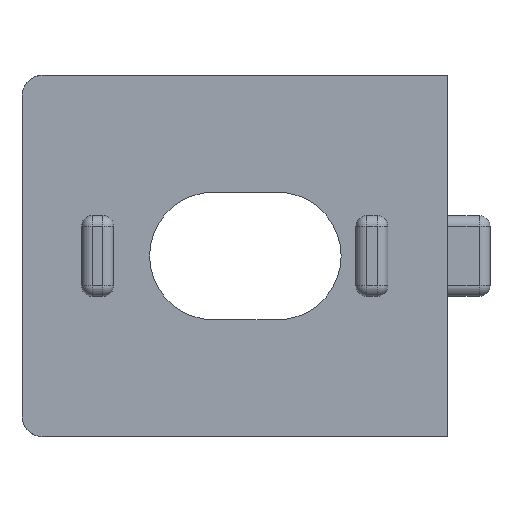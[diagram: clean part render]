
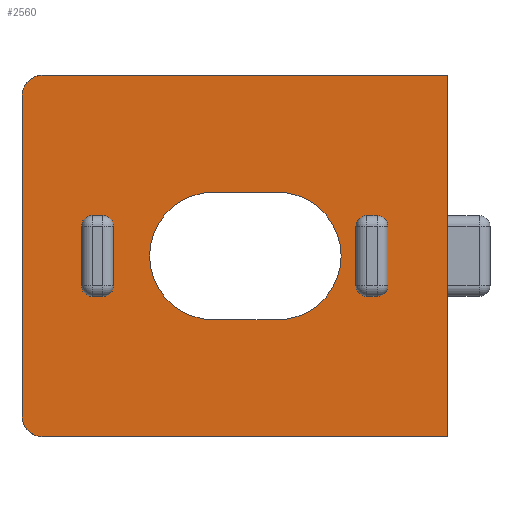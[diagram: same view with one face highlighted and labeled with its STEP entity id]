
A CAD part, left-side view. The second image highlights one B-rep face of the part: STEP entity #2560.
In plain terms, the highlighted planar face has unit normal (-1, 0, 0).
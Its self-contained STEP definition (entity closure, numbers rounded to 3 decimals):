
#1015=CARTESIAN_POINT('',(0.0,3.8,-6.6));
#1016=VERTEX_POINT('',#1015);
#1017=CARTESIAN_POINT('',(0.0,4.3,-7.1));
#1018=VERTEX_POINT('',#1017);
#1019=CARTESIAN_POINT('',(0.0,3.8,-7.1));
#1020=DIRECTION('',(1.,0.0,0.0));
#1021=DIRECTION('',(0.0,0.707,0.707));
#1022=AXIS2_PLACEMENT_3D('',#1019,#1020,#1021);
#1023=CIRCLE('',#1022,0.5);
#1024=EDGE_CURVE('',#1016,#1018,#1023,.F.);
#1069=CARTESIAN_POINT('',(0.0,2.8,-7.1));
#1070=VERTEX_POINT('',#1069);
#1071=CARTESIAN_POINT('',(0.0,3.3,-6.6));
#1072=VERTEX_POINT('',#1071);
#1073=CARTESIAN_POINT('',(0.0,3.3,-7.1));
#1074=DIRECTION('',(1.,0.0,0.0));
#1075=DIRECTION('',(0.0,-0.707,0.707));
#1076=AXIS2_PLACEMENT_3D('',#1073,#1074,#1075);
#1077=CIRCLE('',#1076,0.5);
#1078=EDGE_CURVE('',#1070,#1072,#1077,.F.);
#1123=CARTESIAN_POINT('',(0.0,4.3,-9.9));
#1124=VERTEX_POINT('',#1123);
#1125=CARTESIAN_POINT('',(0.0,3.8,-10.4));
#1126=VERTEX_POINT('',#1125);
#1127=CARTESIAN_POINT('',(0.0,3.8,-9.9));
#1128=DIRECTION('',(1.0,0.0,0.0));
#1129=DIRECTION('',(0.0,0.707,-0.707));
#1130=AXIS2_PLACEMENT_3D('',#1127,#1128,#1129);
#1131=CIRCLE('',#1130,0.5);
#1132=EDGE_CURVE('',#1124,#1126,#1131,.F.);
#1177=CARTESIAN_POINT('',(0.0,3.3,-10.4));
#1178=VERTEX_POINT('',#1177);
#1179=CARTESIAN_POINT('',(0.0,2.8,-9.9));
#1180=VERTEX_POINT('',#1179);
#1181=CARTESIAN_POINT('',(0.0,3.3,-9.9));
#1182=DIRECTION('',(1.0,0.0,0.0));
#1183=DIRECTION('',(0.0,-0.707,-0.707));
#1184=AXIS2_PLACEMENT_3D('',#1181,#1182,#1183);
#1185=CIRCLE('',#1184,0.5);
#1186=EDGE_CURVE('',#1178,#1180,#1185,.F.);
#1212=CARTESIAN_POINT('',(0.0,4.3,-9.9));
#1213=DIRECTION('',(0.0,0.0,1.0));
#1214=VECTOR('',#1213,2.8);
#1215=LINE('',#1212,#1214);
#1216=EDGE_CURVE('',#1124,#1018,#1215,.T.);
#1229=CARTESIAN_POINT('',(0.0,3.8,-6.6));
#1230=DIRECTION('',(0.0,-1.0,0.0));
#1231=VECTOR('',#1230,0.5);
#1232=LINE('',#1229,#1231);
#1233=EDGE_CURVE('',#1016,#1072,#1232,.T.);
#1417=CARTESIAN_POINT('',(0.0,17.2,-9.9));
#1418=VERTEX_POINT('',#1417);
#1419=CARTESIAN_POINT('',(0.0,16.7,-10.4));
#1420=VERTEX_POINT('',#1419);
#1421=CARTESIAN_POINT('',(0.0,16.7,-9.9));
#1422=DIRECTION('',(1.0,0.0,0.0));
#1423=DIRECTION('',(0.0,0.707,-0.707));
#1424=AXIS2_PLACEMENT_3D('',#1421,#1422,#1423);
#1425=CIRCLE('',#1424,0.5);
#1426=EDGE_CURVE('',#1418,#1420,#1425,.F.);
#1471=CARTESIAN_POINT('',(0.0,16.7,-6.6));
#1472=VERTEX_POINT('',#1471);
#1473=CARTESIAN_POINT('',(0.0,17.2,-7.1));
#1474=VERTEX_POINT('',#1473);
#1475=CARTESIAN_POINT('',(0.0,16.7,-7.1));
#1476=DIRECTION('',(1.0,0.0,0.0));
#1477=DIRECTION('',(0.0,0.707,0.707));
#1478=AXIS2_PLACEMENT_3D('',#1475,#1476,#1477);
#1479=CIRCLE('',#1478,0.5);
#1480=EDGE_CURVE('',#1472,#1474,#1479,.F.);
#1525=CARTESIAN_POINT('',(0.0,16.2,-10.4));
#1526=VERTEX_POINT('',#1525);
#1527=CARTESIAN_POINT('',(0.0,15.7,-9.9));
#1528=VERTEX_POINT('',#1527);
#1529=CARTESIAN_POINT('',(0.0,16.2,-9.9));
#1530=DIRECTION('',(1.0,0.0,0.0));
#1531=DIRECTION('',(0.0,-0.707,-0.707));
#1532=AXIS2_PLACEMENT_3D('',#1529,#1530,#1531);
#1533=CIRCLE('',#1532,0.5);
#1534=EDGE_CURVE('',#1526,#1528,#1533,.F.);
#1579=CARTESIAN_POINT('',(0.0,15.7,-7.1));
#1580=VERTEX_POINT('',#1579);
#1581=CARTESIAN_POINT('',(0.0,16.2,-6.6));
#1582=VERTEX_POINT('',#1581);
#1583=CARTESIAN_POINT('',(0.0,16.2,-7.1));
#1584=DIRECTION('',(1.0,0.0,0.0));
#1585=DIRECTION('',(0.0,-0.707,0.707));
#1586=AXIS2_PLACEMENT_3D('',#1583,#1584,#1585);
#1587=CIRCLE('',#1586,0.5);
#1588=EDGE_CURVE('',#1580,#1582,#1587,.F.);
#1614=CARTESIAN_POINT('',(0.0,16.2,-10.4));
#1615=DIRECTION('',(0.0,1.0,0.0));
#1616=VECTOR('',#1615,0.5);
#1617=LINE('',#1614,#1616);
#1618=EDGE_CURVE('',#1526,#1420,#1617,.T.);
#1631=CARTESIAN_POINT('',(0.0,17.2,-9.9));
#1632=DIRECTION('',(0.0,0.0,1.0));
#1633=VECTOR('',#1632,2.8);
#1634=LINE('',#1631,#1633);
#1635=EDGE_CURVE('',#1418,#1474,#1634,.T.);
#1658=CARTESIAN_POINT('',(0.0,2.8,-7.1));
#1659=DIRECTION('',(0.0,0.0,-1.0));
#1660=VECTOR('',#1659,2.8);
#1661=LINE('',#1658,#1660);
#1662=EDGE_CURVE('',#1070,#1180,#1661,.T.);
#1675=CARTESIAN_POINT('',(0.0,3.3,-10.4));
#1676=DIRECTION('',(0.0,1.0,0.0));
#1677=VECTOR('',#1676,0.5);
#1678=LINE('',#1675,#1677);
#1679=EDGE_CURVE('',#1178,#1126,#1678,.T.);
#1692=CARTESIAN_POINT('',(0.0,16.7,-6.6));
#1693=DIRECTION('',(0.0,-1.0,0.0));
#1694=VECTOR('',#1693,0.5);
#1695=LINE('',#1692,#1694);
#1696=EDGE_CURVE('',#1472,#1582,#1695,.T.);
#1709=CARTESIAN_POINT('',(0.0,15.7,-7.1));
#1710=DIRECTION('',(0.0,0.0,-1.0));
#1711=VECTOR('',#1710,2.8);
#1712=LINE('',#1709,#1711);
#1713=EDGE_CURVE('',#1580,#1528,#1712,.T.);
#1921=CARTESIAN_POINT('',(0.0,11.0,-11.5));
#1922=VERTEX_POINT('',#1921);
#1923=CARTESIAN_POINT('',(0.0,11.0,-5.5));
#1924=VERTEX_POINT('',#1923);
#1925=CARTESIAN_POINT('',(0.0,11.0,-8.5));
#1926=DIRECTION('',(1.0,0.0,0.0));
#1927=DIRECTION('',(0.0,0.0,-1.0));
#1928=AXIS2_PLACEMENT_3D('',#1925,#1926,#1927);
#1929=CIRCLE('',#1928,3.);
#1930=EDGE_CURVE('',#1922,#1924,#1929,.T.);
#1963=CARTESIAN_POINT('',(0.0,8.,-5.5));
#1964=VERTEX_POINT('',#1963);
#1965=CARTESIAN_POINT('',(0.0,11.0,-5.5));
#1966=DIRECTION('',(0.0,-1.0,0.0));
#1967=VECTOR('',#1966,3.);
#1968=LINE('',#1965,#1967);
#1969=EDGE_CURVE('',#1924,#1964,#1968,.T.);
#1994=CARTESIAN_POINT('',(0.0,8.0,-11.5));
#1995=VERTEX_POINT('',#1994);
#1996=CARTESIAN_POINT('',(0.0,8.0,-8.5));
#1997=DIRECTION('',(1.0,0.0,0.0));
#1998=DIRECTION('',(0.0,0.0,-1.0));
#1999=AXIS2_PLACEMENT_3D('',#1996,#1997,#1998);
#2000=CIRCLE('',#1999,3.);
#2001=EDGE_CURVE('',#1964,#1995,#2000,.T.);
#2027=CARTESIAN_POINT('',(0.0,8.0,-11.5));
#2028=DIRECTION('',(0.0,1.0,0.0));
#2029=VECTOR('',#2028,3.0);
#2030=LINE('',#2027,#2029);
#2031=EDGE_CURVE('',#1995,#1922,#2030,.T.);
#2433=CARTESIAN_POINT('',(0.0,19.0,-17.0));
#2434=VERTEX_POINT('',#2433);
#2435=CARTESIAN_POINT('',(0.0,20.0,-16.0));
#2436=VERTEX_POINT('',#2435);
#2437=CARTESIAN_POINT('',(0.0,19.0,-16.0));
#2438=DIRECTION('',(1.,0.0,0.0));
#2439=DIRECTION('',(0.0,0.707,-0.707));
#2440=AXIS2_PLACEMENT_3D('',#2437,#2438,#2439);
#2441=CIRCLE('',#2440,1.);
#2442=EDGE_CURVE('',#2434,#2436,#2441,.T.);
#2467=CARTESIAN_POINT('',(0.0,20.0,-1.0));
#2468=VERTEX_POINT('',#2467);
#2469=CARTESIAN_POINT('',(0.0,20.0,-1.0));
#2470=DIRECTION('',(0.0,0.0,-1.0));
#2471=VECTOR('',#2470,15.0);
#2472=LINE('',#2469,#2471);
#2473=EDGE_CURVE('',#2468,#2436,#2472,.T.);
#2494=CARTESIAN_POINT('',(0.0,20.0,0.0));
#2495=DIRECTION('',(-1.0,0.0,0.0));
#2496=DIRECTION('',(0.0,0.0,1.0));
#2497=AXIS2_PLACEMENT_3D('',#2494,#2495,#2496);
#2498=PLANE('',#2497);
#2499=ORIENTED_EDGE('',*,*,#2442,.F.);
#2500=CARTESIAN_POINT('',(0.0,0.0,-17.0));
#2501=VERTEX_POINT('',#2500);
#2502=CARTESIAN_POINT('',(0.0,19.0,-17.0));
#2503=DIRECTION('',(0.0,-1.0,0.0));
#2504=VECTOR('',#2503,19.0);
#2505=LINE('',#2502,#2504);
#2506=EDGE_CURVE('',#2434,#2501,#2505,.T.);
#2507=ORIENTED_EDGE('',*,*,#2506,.T.);
#2508=CARTESIAN_POINT('',(0.0,0.0,0.0));
#2509=VERTEX_POINT('',#2508);
#2510=CARTESIAN_POINT('',(0.0,0.0,0.0));
#2511=DIRECTION('',(0.0,0.0,-1.0));
#2512=VECTOR('',#2511,17.0);
#2513=LINE('',#2510,#2512);
#2514=EDGE_CURVE('',#2509,#2501,#2513,.T.);
#2515=ORIENTED_EDGE('',*,*,#2514,.F.);
#2516=CARTESIAN_POINT('',(0.0,19.0,0.0));
#2517=VERTEX_POINT('',#2516);
#2518=CARTESIAN_POINT('',(0.0,19.0,0.0));
#2519=DIRECTION('',(0.0,-1.0,0.0));
#2520=VECTOR('',#2519,19.0);
#2521=LINE('',#2518,#2520);
#2522=EDGE_CURVE('',#2517,#2509,#2521,.T.);
#2523=ORIENTED_EDGE('',*,*,#2522,.F.);
#2524=CARTESIAN_POINT('',(0.0,19.0,-1.0));
#2525=DIRECTION('',(1.,0.0,0.0));
#2526=DIRECTION('',(0.0,0.707,0.707));
#2527=AXIS2_PLACEMENT_3D('',#2524,#2525,#2526);
#2528=CIRCLE('',#2527,1.0);
#2529=EDGE_CURVE('',#2468,#2517,#2528,.T.);
#2530=ORIENTED_EDGE('',*,*,#2529,.F.);
#2531=ORIENTED_EDGE('',*,*,#2473,.T.);
#2532=EDGE_LOOP('',(#2499,#2507,#2515,#2523,#2530,#2531));
#2533=FACE_OUTER_BOUND('',#2532,.T.);
#2534=ORIENTED_EDGE('',*,*,#1233,.T.);
#2535=ORIENTED_EDGE('',*,*,#1078,.F.);
#2536=ORIENTED_EDGE('',*,*,#1662,.T.);
#2537=ORIENTED_EDGE('',*,*,#1186,.F.);
#2538=ORIENTED_EDGE('',*,*,#1679,.T.);
#2539=ORIENTED_EDGE('',*,*,#1132,.F.);
#2540=ORIENTED_EDGE('',*,*,#1216,.T.);
#2541=ORIENTED_EDGE('',*,*,#1024,.F.);
#2542=EDGE_LOOP('',(#2534,#2535,#2536,#2537,#2538,#2539,#2540,#2541));
#2543=FACE_BOUND('',#2542,.T.);
#2544=ORIENTED_EDGE('',*,*,#1696,.T.);
#2545=ORIENTED_EDGE('',*,*,#1588,.F.);
#2546=ORIENTED_EDGE('',*,*,#1713,.T.);
#2547=ORIENTED_EDGE('',*,*,#1534,.F.);
#2548=ORIENTED_EDGE('',*,*,#1618,.T.);
#2549=ORIENTED_EDGE('',*,*,#1426,.F.);
#2550=ORIENTED_EDGE('',*,*,#1635,.T.);
#2551=ORIENTED_EDGE('',*,*,#1480,.F.);
#2552=EDGE_LOOP('',(#2544,#2545,#2546,#2547,#2548,#2549,#2550,#2551));
#2553=FACE_BOUND('',#2552,.T.);
#2554=ORIENTED_EDGE('',*,*,#2001,.T.);
#2555=ORIENTED_EDGE('',*,*,#2031,.T.);
#2556=ORIENTED_EDGE('',*,*,#1930,.T.);
#2557=ORIENTED_EDGE('',*,*,#1969,.T.);
#2558=EDGE_LOOP('',(#2554,#2555,#2556,#2557));
#2559=FACE_BOUND('',#2558,.T.);
#2560=ADVANCED_FACE('',(#2533,#2543,#2553,#2559),#2498,.T.);
